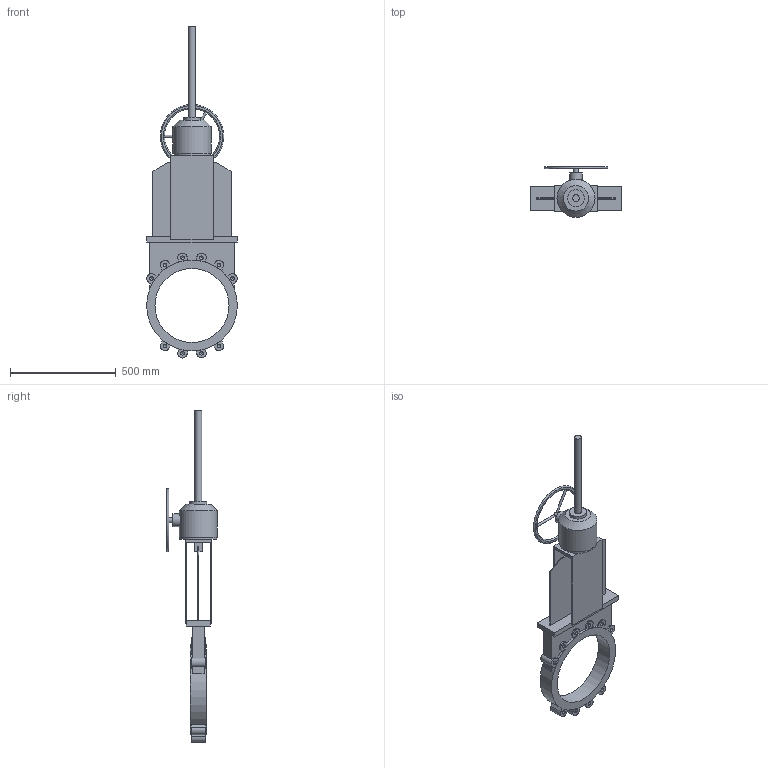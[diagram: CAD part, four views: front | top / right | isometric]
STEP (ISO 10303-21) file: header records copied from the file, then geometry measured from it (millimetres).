
FILE_DESCRIPTION(('STEP AP203'), '1');
FILE_NAME('Çàäâèæêà øèáåðíàÿ K51GV DN350 ðåäóêòîð+âûäâèæíîé øïèíäåëü', '', ('UNSPECIFIED'), ('UNSPECIFIED'), 'ASCON STEP Converter 1.6', 'ASCON Math Kernel', '');
FILE_SCHEMA(('CONFIG_CONTROL_DESIGN'));
Length unit declared in the file: millimetre
Bounding box: 430 x 240 x 1569.08 mm (x, y, z)
Volume: 14602472.5 mm3; surface area: 1367186.4 mm2
Topology: 1 solids, 1 shells, 173 faces, 460 edges, 293 vertices
Faces by surface type: plane 103, cylinder 45, cone 21, torus 4
Full cylindrical faces by diameter (mm): 10 x3, 17.294 x20, 24 x1, 32 x1, 60 x1, 80 x1, 175 x1, 180 x1, 350 x1, 429 x1
Entity records: 7631 total; most frequent: CARTESIAN_POINT 2152, DIRECTION 860, ORIENTED_EDGE 772, EDGE_CURVE 386, AXIS2_PLACEMENT_3D 313, VERTEX_POINT 273, EDGE_LOOP 243, LINE 234
